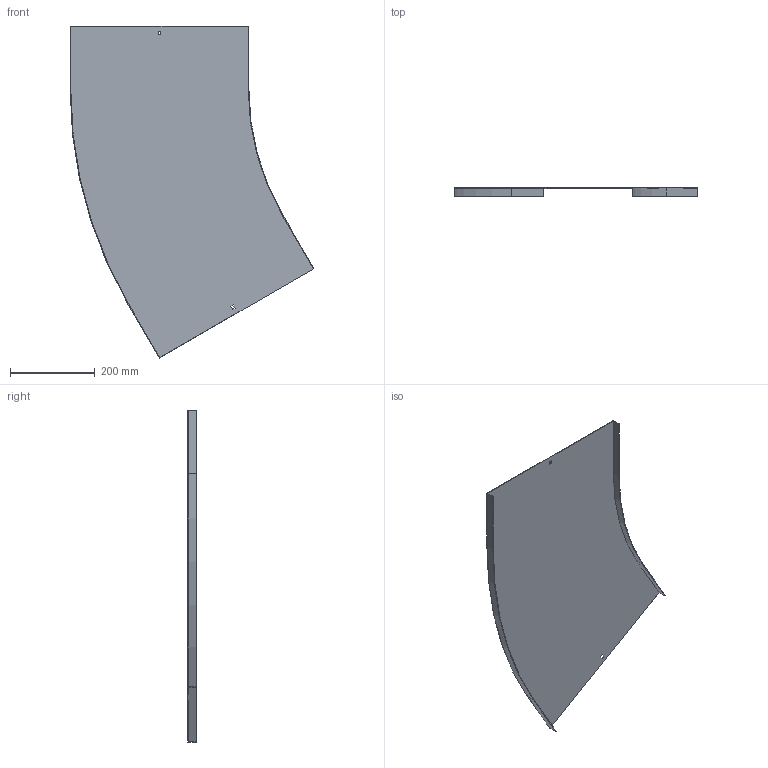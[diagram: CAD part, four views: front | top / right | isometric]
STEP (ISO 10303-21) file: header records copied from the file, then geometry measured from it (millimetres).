
FILE_DESCRIPTION (( 'STEP AP214' ), '1' );
FILE_NAME ('12N6P400.step', '2025-02-21T13:34:27', ( '' ), ( '' ), 'SwSTEP 2.0', 'SolidWorks 2023', '' );
FILE_SCHEMA (( 'AUTOMOTIVE_DESIGN' ));
Length unit declared in the file: millimetre
Products named in the file (1): 12N6P400
Bounding box: 576.84 x 20 x 785.65 mm (x, y, z)
Volume: 495851 mm3; surface area: 664764.3 mm2
Topology: 1 solids, 1 shells, 26 faces, 72 edges, 48 vertices
Faces by surface type: plane 22, cylinder 4
Entity records: 855 total; most frequent: CARTESIAN_POINT 147, ORIENTED_EDGE 144, DIRECTION 134, EDGE_CURVE 72, VECTOR 64, LINE 64, VERTEX_POINT 48, AXIS2_PLACEMENT_3D 35
